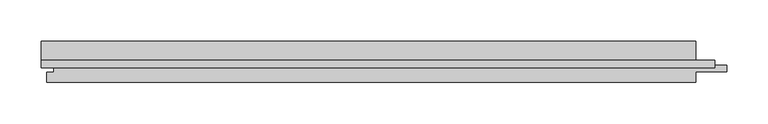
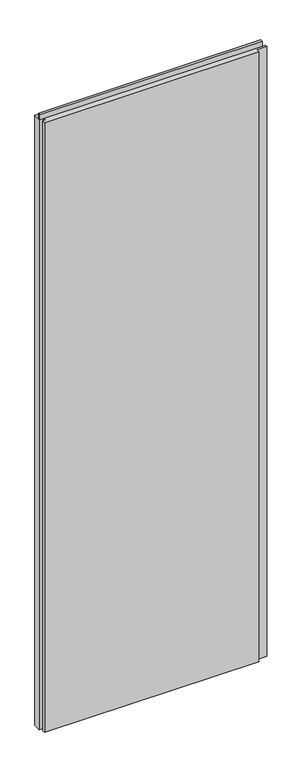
"""IFC4 building model written with IfcOpenShell, lengths in millimetres: plate geometry, Trimo_Qbiss Screen_Normal Panel-VERTICAL : HR - B."""

from ifc_helpers import new_model, si_unit, frame, origin, place, context, project, spatial, polyline, outline, extrude, source, transform, mapped, element, save


def plate_cab83f3e(model_context):
    return source(origin(), model_context, "Body", "SweptSolid", [
        extrude(outline(polyline([(445.0, 97.0), (445.0, 102.6), (466.0, 102.6), (466.0, 97.0), (445.0, 97.0)])), frame((0.0, 0.0, 12.5), z_axis=(0.0, 0.0, 1.0), x_axis=(1.0, 0.0, 0.0)), (0.0, 0.0, 1.0), 2375.0),
        extrude(outline(polyline([(-351.0, 93.9), (-351.0, 102.6), (467.0, 102.6), (467.0, 93.9), (-351.0, 93.9)])), frame((0.0, 0.0, 2390.5), z_axis=(0.0, 0.0, 1.0), x_axis=(1.0, 0.0, 0.0)), (0.0, 0.0, 1.0), 19.0),
        extrude(outline(polyline([(444.0, 97.0), (481.5, 97.0), (481.5, 89.0), (444.0, 89.0), (444.0, 76.0), (-344.0, 76.0), (-344.0, 88.0), (-335.5, 88.0), (-335.5, 98.0), (-351.0, 98.0), (-351.0, 126.0), (444.0, 126.0), (444.0, 97.0)])), frame((0.0, 0.0, 12.5), z_axis=(0.0, 0.0, 1.0), x_axis=(1.0, 0.0, 0.0)), (0.0, 0.0, 1.0), 2375.0),
    ])


if __name__ == "__main__":
    model = new_model("IFC4")
    model_context = context("Model", 3, world=origin())
    ifc_project = project(units=[si_unit("LENGTHUNIT", "METRE", prefix="MILLI")], contexts=[model_context])
    site = spatial("IfcSite", under=ifc_project)
    building = spatial("IfcBuilding", under=site)
    placement = place(None, origin())
    plate_shape = plate_cab83f3e(model_context)
    element("IfcPlate", 1, ObjectType="Trimo_Qbiss Screen_Normal Panel-VERTICAL : HR - B", at=placement, inside=building, context=model_context, shape_type="MappedRepresentation", body=[
        mapped(plate_shape, transform((0.0, 0.0, 0.0), x_axis=(1.0, 0.0, 0.0), y_axis=(0.0, 1.0, 0.0), z_axis=(0.0, 0.0, 1.0))),
    ])
    save(model, "model.ifc")
